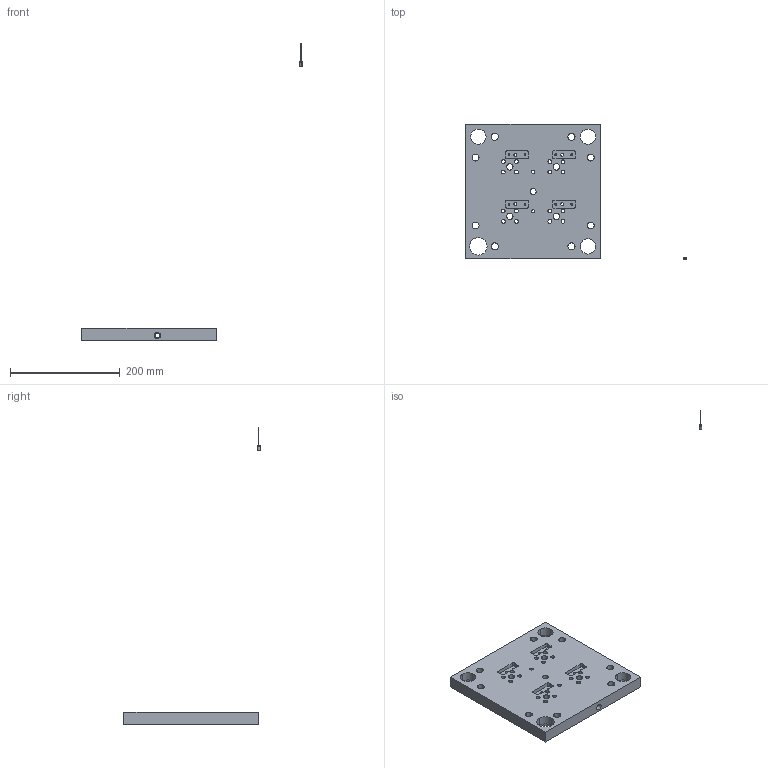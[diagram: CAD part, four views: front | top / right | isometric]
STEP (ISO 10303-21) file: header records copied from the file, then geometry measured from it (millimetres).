
FILE_DESCRIPTION (( 'STEP AP203' ), '1' );
FILE_NAME ('EFICN Contre-plaque inférieure.STEP', '2010-09-29T15:09:15', ( '' ), ( '' ), 'SwSTEP 2.0', 'SolidWorks 2009', '' );
FILE_SCHEMA (( 'CONFIG_CONTROL_DESIGN' ));
Length unit declared in the file: millimetre
Products named in the file (6): TAGD-Taraud Goujures Droites Z3_TAGD-Z3; FOCE-Foret à Centrer_FOCU-90; EFICN Contre-plaque inférieure; EFICN CONTRE PLAQUE INFERIEURE; EFIOutilF_1; FOAC-Foret ARS Coupe Acier_FOAC
Assembly tree (6 placements, depth 2):
  EFICN Contre-plaque inférieure
    EFICN CONTRE PLAQUE INFERIEURE
    FOCE-Foret à Centrer_FOCU-90
    FOAC-Foret ARS Coupe Acier_FOAC  x2
    EFIOutilF_1
    TAGD-Taraud Goujures Droites Z3_TAGD-Z3
Bounding box: 402.5 x 248.49 x 541.82 mm (x, y, z)
Volume: 1183745.9 mm3; surface area: 172717.5 mm2
Topology: 6 solids, 6 shells, 477 faces, 1335 edges, 866 vertices
Faces by surface type: cylinder 214, cone 182, plane 60, bspline 12, torus 9
Entity records: 18860 total; most frequent: CARTESIAN_POINT 7668, ORIENTED_EDGE 2346, DIRECTION 2076, EDGE_CURVE 1173, AXIS2_PLACEMENT_3D 899, VERTEX_POINT 773, EDGE_LOOP 526, CIRCLE 470
